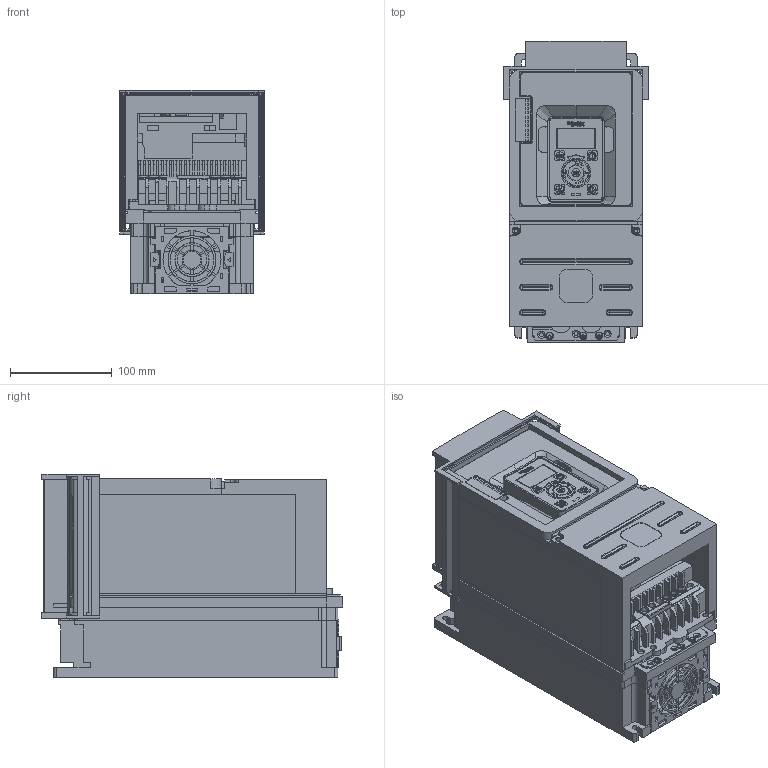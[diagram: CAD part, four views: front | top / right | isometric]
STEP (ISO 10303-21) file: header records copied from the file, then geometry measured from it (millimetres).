
FILE_DESCRIPTION(('STEP AP242'),'1');
FILE_NAME('atv610u07n4.stp','2019-08-04T10:13:33',('TraceParts'),('TraceParts S.A.'),'Spatial InterOp 3D',' ',' ');
FILE_SCHEMA(('AP242_MANAGED_MODEL_BASED_3D_ENGINEERING_MIM_LF {1 0 10303 442 1 1 4}'));
Length unit declared in the file: millimetre
Products named in the file (1): atv610u07n4_1
Bounding box: 142 x 296.21 x 200 mm (x, y, z)
Volume: 1180897.3 mm3; surface area: 820731.4 mm2
Topology: 20 solids, 20 shells, 3179 faces, 9049 edges, 5922 vertices
Faces by surface type: plane 1996, cylinder 697, extrusion 281, torus 133, bspline 29, cone 24, sphere 19
Entity records: 109247 total; most frequent: CARTESIAN_POINT 25934, ORIENTED_EDGE 18058, DIRECTION 16245, EDGE_CURVE 9029, VECTOR 6619, LINE 6338, VERTEX_POINT 5922, AXIS2_PLACEMENT_3D 4813
